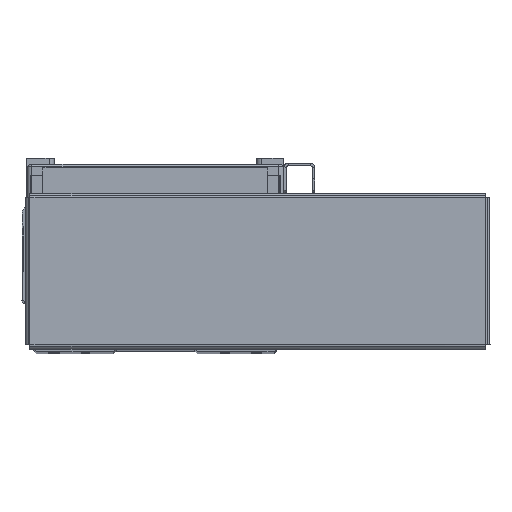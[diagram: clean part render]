
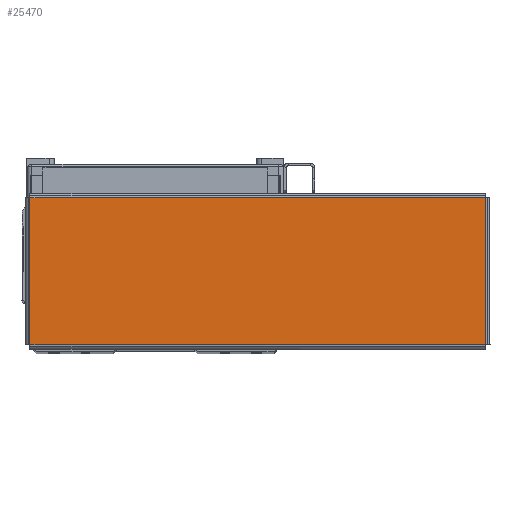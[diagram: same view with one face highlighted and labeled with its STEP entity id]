
A CAD part, top view. The second image highlights one B-rep face of the part: STEP entity #25470.
In plain terms, the highlighted planar face has unit normal (0, 0, 1) as drawn and (0, -1, 0) by its records, which use the part's own axes.
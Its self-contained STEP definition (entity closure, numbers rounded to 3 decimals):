
#2124 = EDGE_CURVE ( 'NONE', #16330, #16274, #37197, .T. ) ;
#2142 = EDGE_CURVE ( 'NONE', #16304, #16325, #37131, .T. ) ;
#2158 = EDGE_CURVE ( 'NONE', #16274, #16304, #37285, .T. ) ;
#2170 = EDGE_CURVE ( 'NONE', #16325, #16330, #37209, .T. ) ;
#3737 = FACE_OUTER_BOUND ( 'NONE', #30614, .T. ) ;
#5075 = AXIS2_PLACEMENT_3D ( 'NONE', #18500, #18453, #18457 ) ;
#13746 = CARTESIAN_POINT ( 'NONE',  ( 92.263, -1., -29.763 ) ) ;
#13775 = CARTESIAN_POINT ( 'NONE',  ( 92.263, -1., 29.763 ) ) ;
#13804 = CARTESIAN_POINT ( 'NONE',  ( -92.263, -1., 29.763 ) ) ;
#13843 = CARTESIAN_POINT ( 'NONE',  ( -92.263, -1., -29.763 ) ) ;
#16274 = VERTEX_POINT ( 'NONE', #13746 ) ;
#16304 = VERTEX_POINT ( 'NONE', #13775 ) ;
#16325 = VERTEX_POINT ( 'NONE', #13804 ) ;
#16330 = VERTEX_POINT ( 'NONE', #13843 ) ;
#18453 = DIRECTION ( 'NONE',  ( 0., 1., 0. ) ) ;
#18457 = DIRECTION ( 'NONE',  ( 0., 0., 1. ) ) ;
#18474 = PLANE ( 'NONE',  #5075 ) ;
#18500 = CARTESIAN_POINT ( 'NONE',  ( 0., -1., 0. ) ) ;
#25470 = ADVANCED_FACE ( 'NONE', ( #3737 ), #18474, .F. ) ;
#30614 = EDGE_LOOP ( 'NONE', ( #56537, #56565, #56548, #56557 ) ) ;
#37131 = LINE ( 'NONE', #39182, #37151 ) ;
#37135 = VECTOR ( 'NONE', #38982, 1000. ) ;
#37151 = VECTOR ( 'NONE', #39124, 1000. ) ;
#37197 = LINE ( 'NONE', #39036, #37135 ) ;
#37209 = LINE ( 'NONE', #39353, #37211 ) ;
#37211 = VECTOR ( 'NONE', #39376, 1000. ) ;
#37285 = LINE ( 'NONE', #39218, #37321 ) ;
#37321 = VECTOR ( 'NONE', #39254, 1000. ) ;
#38982 = DIRECTION ( 'NONE',  ( 1., 0., 0. ) ) ;
#39036 = CARTESIAN_POINT ( 'NONE',  ( -92.293, -1., -29.763 ) ) ;
#39124 = DIRECTION ( 'NONE',  ( -1., 0., 0. ) ) ;
#39182 = CARTESIAN_POINT ( 'NONE',  ( 92.293, -1., 29.763 ) ) ;
#39218 = CARTESIAN_POINT ( 'NONE',  ( 92.263, -1., -29.793 ) ) ;
#39254 = DIRECTION ( 'NONE',  ( 0., 0., 1. ) ) ;
#39353 = CARTESIAN_POINT ( 'NONE',  ( -92.263, -1., 29.793 ) ) ;
#39376 = DIRECTION ( 'NONE',  ( 0., 0., -1. ) ) ;
#56537 = ORIENTED_EDGE ( 'NONE', *, *, #2124, .T. ) ;
#56548 = ORIENTED_EDGE ( 'NONE', *, *, #2142, .T. ) ;
#56557 = ORIENTED_EDGE ( 'NONE', *, *, #2170, .T. ) ;
#56565 = ORIENTED_EDGE ( 'NONE', *, *, #2158, .T. ) ;
